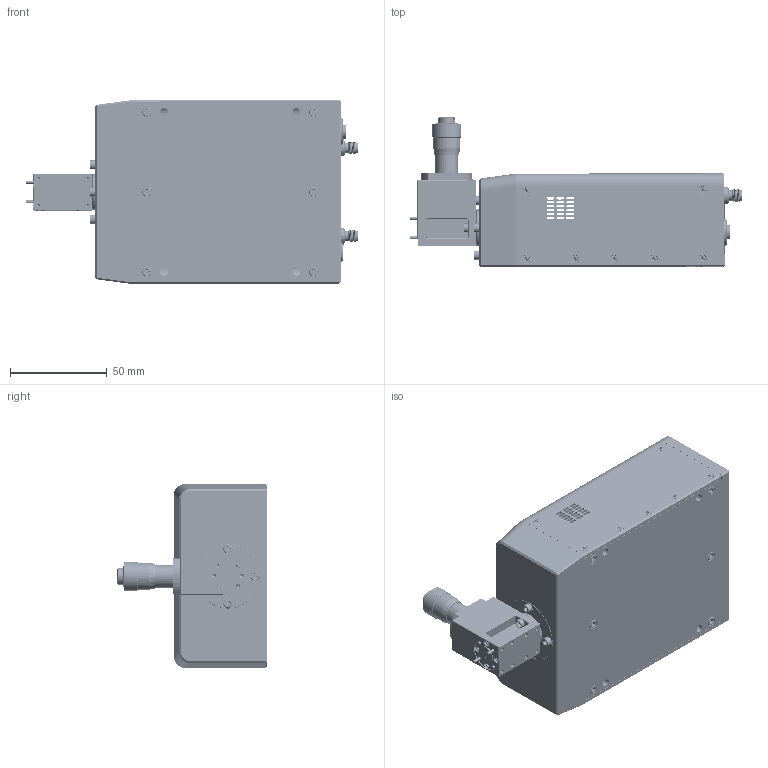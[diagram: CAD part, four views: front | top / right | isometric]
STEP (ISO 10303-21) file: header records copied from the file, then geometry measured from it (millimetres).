
FILE_DESCRIPTION (( 'STEP AP214' ), '1' );
FILE_NAME ('TO-RV-A Mountable.STEP', '2024-11-14T22:59:21', ( '' ), ( '' ), 'SwSTEP 2.0', 'SolidWorks 2021', '' );
FILE_SCHEMA (( 'AUTOMOTIVE_DESIGN' ));
Length unit declared in the file: inch
Products named in the file (1): TO-RV-A Mountable
Bounding box: 171.94 x 77.97 x 95.36 mm (x, y, z)
Volume: 231030.4 mm3; surface area: 126706.6 mm2
Topology: 67 solids, 78 shells, 4442 faces, 11501 edges, 7265 vertices
Faces by surface type: cylinder 1966, plane 1306, cone 865, bspline 263, sphere 30, torus 12
Entity records: 220132 total; most frequent: CARTESIAN_POINT 119809, ORIENTED_EDGE 22700, DIRECTION 18645, EDGE_CURVE 11350, VERTEX_POINT 7262, AXIS2_PLACEMENT_3D 7120, EDGE_LOOP 4916, ADVANCED_FACE 4442
